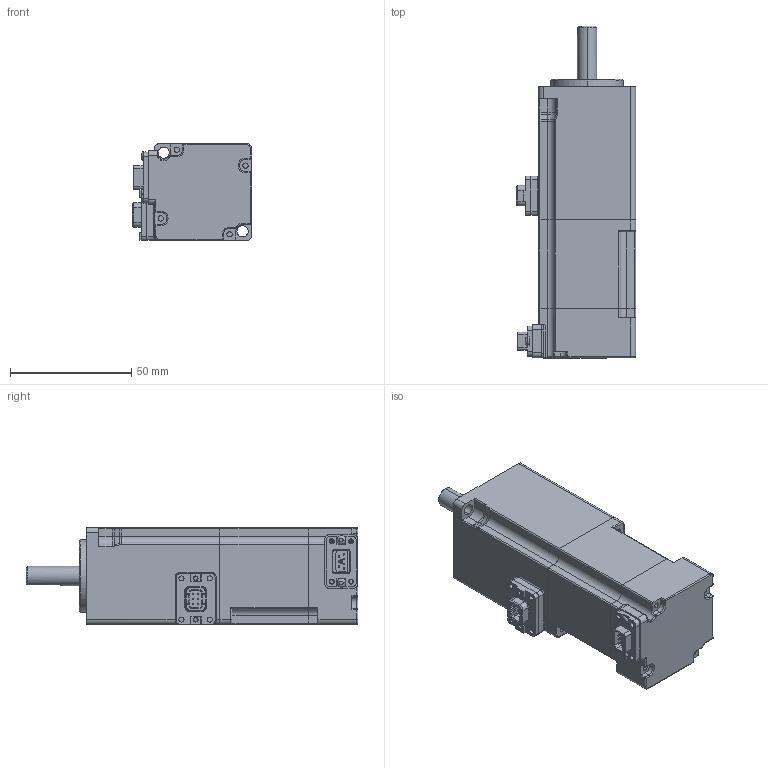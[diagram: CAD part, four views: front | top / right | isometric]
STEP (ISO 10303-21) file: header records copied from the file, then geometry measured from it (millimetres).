
FILE_DESCRIPTION(('FreeCAD Model'),'2;1');
FILE_NAME('Open CASCADE Shape Model','2025-03-17T11:59:05',('Author'),( ''),'Open CASCADE STEP processor 7.6','FreeCAD','Unknown');
FILE_SCHEMA(('AUTOMOTIVE_DESIGN { 1 0 10303 214 1 1 1 1 }'));
Length unit declared in the file: millimetre
Products named in the file (13): PSM6H-40CS30BZ3-20P1; PSM6H-40CS30BZ3-20P002; PSM6H-40CS30BZ3-20P003; PSM6H-40CS30BZ3-20P004; PSM6H-40CS30BZ3-20P005; PSM6H-40CS30BZ3-20P006; PSM6H-40CS30BZ3-20P007; PSM6H-40CS30BZ3-20P008; PSM6H-40CS30BZ3-20P009; PSM6H-40CS30BZ3-20P010; PSM6H-40CS30BZ3-20P011; PSM6H-40CS30BZ3-20P012; PSM6H-40CS30BZ3-20P013
Assembly tree (12 placements, depth 2):
  PSM6H-40CS30BZ3-20P1
    PSM6H-40CS30BZ3-20P002
    PSM6H-40CS30BZ3-20P003
    PSM6H-40CS30BZ3-20P004
    PSM6H-40CS30BZ3-20P005
    PSM6H-40CS30BZ3-20P006
    PSM6H-40CS30BZ3-20P007
    PSM6H-40CS30BZ3-20P008
    PSM6H-40CS30BZ3-20P009
    PSM6H-40CS30BZ3-20P010
    PSM6H-40CS30BZ3-20P011
    PSM6H-40CS30BZ3-20P012
    PSM6H-40CS30BZ3-20P013
Bounding box: 49.2 x 137 x 40 mm (x, y, z)
Surface area: 24675 mm2 (no closed solid volume)
Topology: 0 solids, 12 shells, 582 faces, 2011 edges, 1419 vertices
Faces by surface type: plane 275, cylinder 216, torus 40, cone 26, bspline 12, sphere 9, revolution 4
Entity records: 22784 total; most frequent: CARTESIAN_POINT 5317, DIRECTION 3616, ORIENTED_EDGE 3197, EDGE_CURVE 2002, VERTEX_POINT 1419, LINE 1380, VECTOR 1380, AXIS2_PLACEMENT_3D 1116
